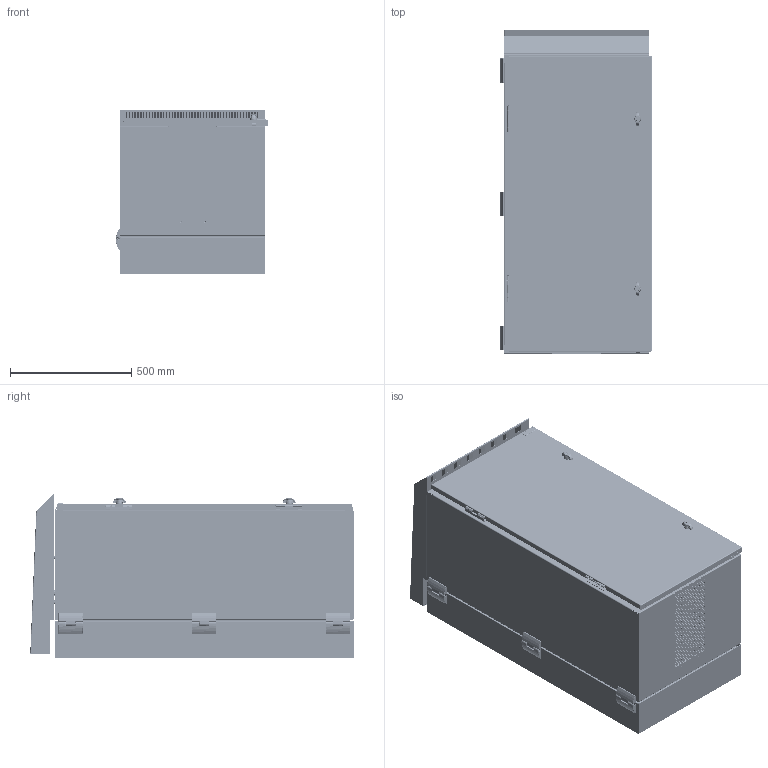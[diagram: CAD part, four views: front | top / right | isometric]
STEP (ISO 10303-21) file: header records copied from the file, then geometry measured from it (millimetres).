
FILE_DESCRIPTION (( 'STEP AP203' ), '1' );
FILE_NAME ('pths482424g3.STEP', '2011-11-30T16:35:05', ( 'Hoffman User' ), ( 'Hoffman Enclosures' ), 'SwSTEP 2.0', 'SolidWorks 2010', '' );
FILE_SCHEMA (( 'CONFIG_CONTROL_DESIGN' ));
Length unit declared in the file: millimetre
Products named in the file (67): 99407418; 87928600; 64138001; 89060606_89060606; 89072125_87931339; 87790199; 60127214_601272214; 87790201_87790201; 60127135_Installed postion; 60127199_60127199; 56906712_56906712; 89066980; 89066979_WITH STAKE; 89066976; 89066978; 89066977; 87540581; 89066975; 99411986; 89060213; 89070551; 89060212; 89060214; 89071543_89071543; 89070550; 89070549; 89056327; 87798865; 89072452; 87559481; 10-1000-38; 89071421_BBD; 89071214; 87751868; 89076168; 89076170; 89076169; 89076171; 89070565_SOLAR SHIELD 6060; 89070563_Shield Wrapper 600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
Assembly tree (147 placements, depth 5):
  pths482424g3
    89071543_89071543  x3
    10-1000-38
    89072452
    87790199  x2
    60127214_601272214  x2
      60127135_Installed postion
      60127199_60127199
      56906712_56906712
      87790201_87790201
    89066978  x3
      87540581
      89066977
    89070550  x3
      89056327
      89070549
    87798865
    87559481  x2
    89060212  x3
    89072125_87931339  x2
    89066980  x3
      89066976
      89066979_WITH STAKE
      87540581
    89070565_SOLAR SHIELD 6060
      89070564_PLATE, BACK; 600
      89070563_Shield Wrapper 600
    89060214  x3
    89071421_BBD
      87751868  x2
      89071214
      89076168
        89076169
        89076170
        89076171
    89078338
      99401225  x24
      89078336
      60100041_60100041  x2
        87931527_87931527
        87931368_SLEEVE
      89078337
      89071213
      89070533
    89066975  x3
    89078335
      60100041_60100041
        87931527_87931527
        87931368_SLEEVE
      89060191  x2
      89060190  x2
      89071699_Installed Config  x7
      89078334
      89074727
    89076596_89060267
      64138001  x2
      99407418  x2
      89076597_Compressed wdw gasket
        60100041_60100041
          87931527_87931527
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Bounding box: 626.48 x 1333.51 x 679.39 mm (x, y, z)
Volume: 10995568.9 mm3; surface area: 11842474.1 mm2
Topology: 266 solids, 286 shells, 12762 faces, 32214 edges, 20168 vertices
Faces by surface type: plane 5777, cylinder 4385, bspline 1324, cone 698, torus 430, sphere 148
Entity records: 305670 total; most frequent: CARTESIAN_POINT 111539, ORIENTED_EDGE 39500, DIRECTION 36473, EDGE_CURVE 19750, VERTEX_POINT 12598, AXIS2_PLACEMENT_3D 12572, VECTOR 11329, LINE 11329
